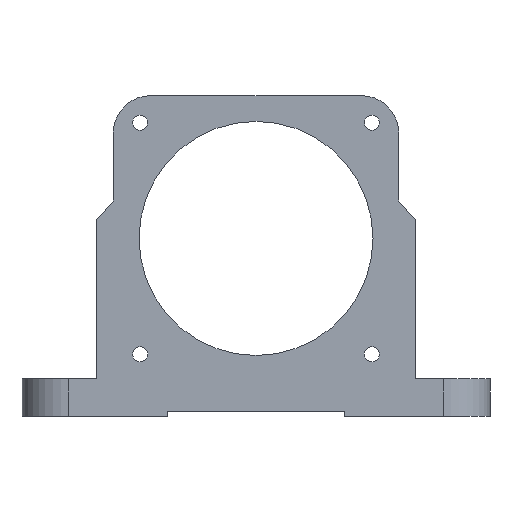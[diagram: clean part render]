
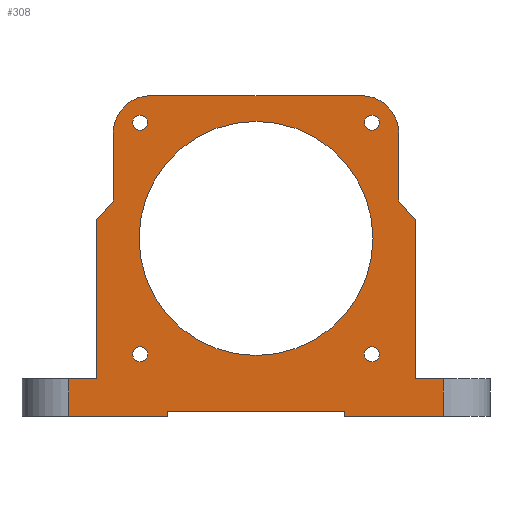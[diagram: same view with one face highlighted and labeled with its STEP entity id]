
A CAD part, front view. The second image highlights one B-rep face of the part: STEP entity #308.
In plain terms, the highlighted planar face has unit normal (0, -1, 0).
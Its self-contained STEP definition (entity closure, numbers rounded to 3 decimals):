
#84=CARTESIAN_POINT('',(-20.5,0.0,67.5));
#85=VERTEX_POINT('',#84);
#92=CARTESIAN_POINT('',(-12.5,0.0,59.5));
#93=VERTEX_POINT('',#92);
#94=CARTESIAN_POINT('',(-20.5,0.,59.5));
#95=DIRECTION('',(0.,1.0,0.));
#96=DIRECTION('',(0.707,0.,0.707));
#97=AXIS2_PLACEMENT_3D('',#94,#95,#96);
#98=CIRCLE('',#97,8.0);
#99=EDGE_CURVE('',#85,#93,#98,.T.);
#110=CARTESIAN_POINT('',(-43.,0.0,3.5));
#111=DIRECTION('',(0.0,1.0,0.0));
#112=DIRECTION('',(0.0,0.0,1.0));
#113=AXIS2_PLACEMENT_3D('',#110,#111,#112);
#114=PLANE('',#113);
#115=ORIENTED_EDGE('',*,*,#99,.F.);
#116=CARTESIAN_POINT('',(-65.5,0.0,67.5));
#117=VERTEX_POINT('',#116);
#118=CARTESIAN_POINT('',(-20.5,0.0,67.5));
#119=DIRECTION('',(-1.0,0.0,0.0));
#120=VECTOR('',#119,45.);
#121=LINE('',#118,#120);
#122=EDGE_CURVE('',#85,#117,#121,.T.);
#123=ORIENTED_EDGE('',*,*,#122,.T.);
#124=CARTESIAN_POINT('',(-73.5,0.0,59.5));
#125=VERTEX_POINT('',#124);
#126=CARTESIAN_POINT('',(-65.5,0.,59.5));
#127=DIRECTION('',(0.,1.0,0.));
#128=DIRECTION('',(-0.707,0.,0.707));
#129=AXIS2_PLACEMENT_3D('',#126,#127,#128);
#130=CIRCLE('',#129,8.0);
#131=EDGE_CURVE('',#125,#117,#130,.T.);
#132=ORIENTED_EDGE('',*,*,#131,.F.);
#133=CARTESIAN_POINT('',(-73.5,0.0,45.0));
#134=VERTEX_POINT('',#133);
#135=CARTESIAN_POINT('',(-73.5,0.0,59.5));
#136=DIRECTION('',(0.0,0.0,-1.0));
#137=VECTOR('',#136,14.5);
#138=LINE('',#135,#137);
#139=EDGE_CURVE('',#125,#134,#138,.T.);
#140=ORIENTED_EDGE('',*,*,#139,.T.);
#141=CARTESIAN_POINT('',(-77.0,0.0,41.));
#142=VERTEX_POINT('',#141);
#143=CARTESIAN_POINT('',(-73.5,0.0,45.0));
#144=DIRECTION('',(-0.659,0.0,-0.753));
#145=VECTOR('',#144,5.315);
#146=LINE('',#143,#145);
#147=EDGE_CURVE('',#134,#142,#146,.T.);
#148=ORIENTED_EDGE('',*,*,#147,.T.);
#149=CARTESIAN_POINT('',(-77.,0.0,7.));
#150=VERTEX_POINT('',#149);
#151=CARTESIAN_POINT('',(-77.,0.0,7.));
#152=DIRECTION('',(0.0,0.0,1.0));
#153=VECTOR('',#152,34.);
#154=LINE('',#151,#153);
#155=EDGE_CURVE('',#150,#142,#154,.T.);
#156=ORIENTED_EDGE('',*,*,#155,.F.);
#157=CARTESIAN_POINT('',(-83.0,0.0,7.));
#158=VERTEX_POINT('',#157);
#159=CARTESIAN_POINT('',(-77.,0.0,7.));
#160=DIRECTION('',(-1.0,0.0,0.0));
#161=VECTOR('',#160,6.);
#162=LINE('',#159,#161);
#163=EDGE_CURVE('',#150,#158,#162,.T.);
#164=ORIENTED_EDGE('',*,*,#163,.T.);
#165=CARTESIAN_POINT('',(-83.0,0.0,-1.));
#166=VERTEX_POINT('',#165);
#167=CARTESIAN_POINT('',(-83.0,0.0,-1.));
#168=DIRECTION('',(0.0,0.0,1.0));
#169=VECTOR('',#168,8.);
#170=LINE('',#167,#169);
#171=EDGE_CURVE('',#166,#158,#170,.T.);
#172=ORIENTED_EDGE('',*,*,#171,.F.);
#173=CARTESIAN_POINT('',(-62.,0.0,-1.));
#174=VERTEX_POINT('',#173);
#175=CARTESIAN_POINT('',(-83.0,0.0,-1.));
#176=DIRECTION('',(1.0,0.0,0.0));
#177=VECTOR('',#176,21.);
#178=LINE('',#175,#177);
#179=EDGE_CURVE('',#166,#174,#178,.T.);
#180=ORIENTED_EDGE('',*,*,#179,.T.);
#181=CARTESIAN_POINT('',(-62.,0.0,0.));
#182=VERTEX_POINT('',#181);
#183=CARTESIAN_POINT('',(-62.,0.0,0.));
#184=DIRECTION('',(0.0,0.0,-1.0));
#185=VECTOR('',#184,1.0);
#186=LINE('',#183,#185);
#187=EDGE_CURVE('',#182,#174,#186,.T.);
#188=ORIENTED_EDGE('',*,*,#187,.F.);
#189=CARTESIAN_POINT('',(-24.,0.0,0.));
#190=VERTEX_POINT('',#189);
#191=CARTESIAN_POINT('',(-62.,0.0,0.));
#192=DIRECTION('',(1.0,0.0,0.0));
#193=VECTOR('',#192,38.);
#194=LINE('',#191,#193);
#195=EDGE_CURVE('',#182,#190,#194,.T.);
#196=ORIENTED_EDGE('',*,*,#195,.T.);
#197=CARTESIAN_POINT('',(-24.,0.0,-1.));
#198=VERTEX_POINT('',#197);
#199=CARTESIAN_POINT('',(-24.,0.0,0.));
#200=DIRECTION('',(0.0,0.0,-1.0));
#201=VECTOR('',#200,1.0);
#202=LINE('',#199,#201);
#203=EDGE_CURVE('',#190,#198,#202,.T.);
#204=ORIENTED_EDGE('',*,*,#203,.T.);
#205=CARTESIAN_POINT('',(-3.,0.0,-1.));
#206=VERTEX_POINT('',#205);
#207=CARTESIAN_POINT('',(-24.,0.0,-1.));
#208=DIRECTION('',(1.0,0.0,0.0));
#209=VECTOR('',#208,21.);
#210=LINE('',#207,#209);
#211=EDGE_CURVE('',#198,#206,#210,.T.);
#212=ORIENTED_EDGE('',*,*,#211,.T.);
#213=CARTESIAN_POINT('',(-3.,0.0,7.));
#214=VERTEX_POINT('',#213);
#215=CARTESIAN_POINT('',(-3.,0.0,7.));
#216=DIRECTION('',(0.0,0.0,-1.0));
#217=VECTOR('',#216,8.);
#218=LINE('',#215,#217);
#219=EDGE_CURVE('',#214,#206,#218,.T.);
#220=ORIENTED_EDGE('',*,*,#219,.F.);
#221=CARTESIAN_POINT('',(-9.,0.,7.));
#222=VERTEX_POINT('',#221);
#223=CARTESIAN_POINT('',(-3.,0.0,7.));
#224=DIRECTION('',(-1.0,0.0,0.0));
#225=VECTOR('',#224,6.);
#226=LINE('',#223,#225);
#227=EDGE_CURVE('',#214,#222,#226,.T.);
#228=ORIENTED_EDGE('',*,*,#227,.T.);
#229=CARTESIAN_POINT('',(-9.,0.0,41.));
#230=VERTEX_POINT('',#229);
#231=CARTESIAN_POINT('',(-9.,0.,7.));
#232=DIRECTION('',(0.0,0.0,1.0));
#233=VECTOR('',#232,34.0);
#234=LINE('',#231,#233);
#235=EDGE_CURVE('',#222,#230,#234,.T.);
#236=ORIENTED_EDGE('',*,*,#235,.T.);
#237=CARTESIAN_POINT('',(-12.5,0.0,45.0));
#238=VERTEX_POINT('',#237);
#239=CARTESIAN_POINT('',(-9.,0.0,41.));
#240=DIRECTION('',(-0.659,0.0,0.753));
#241=VECTOR('',#240,5.315);
#242=LINE('',#239,#241);
#243=EDGE_CURVE('',#230,#238,#242,.T.);
#244=ORIENTED_EDGE('',*,*,#243,.T.);
#245=CARTESIAN_POINT('',(-12.5,0.0,45.0));
#246=DIRECTION('',(0.0,0.0,1.0));
#247=VECTOR('',#246,14.5);
#248=LINE('',#245,#247);
#249=EDGE_CURVE('',#238,#93,#248,.T.);
#250=ORIENTED_EDGE('',*,*,#249,.T.);
#251=EDGE_LOOP('',(#115,#123,#132,#140,#148,#156,#164,#172,#180,#188,#196,#204,#212,#220,#228,#236,#244,#250));
#252=FACE_OUTER_BOUND('',#251,.T.);
#253=CARTESIAN_POINT('',(-18.251,0.0,10.651));
#254=VERTEX_POINT('',#253);
#255=CARTESIAN_POINT('',(-18.251,0.0,12.251));
#256=DIRECTION('',(0.0,1.0,0.0));
#257=DIRECTION('',(0.0,0.0,1.0));
#258=AXIS2_PLACEMENT_3D('',#255,#256,#257);
#259=CIRCLE('',#258,1.6);
#260=EDGE_CURVE('',#254,#254,#259,.T.);
#261=ORIENTED_EDGE('',*,*,#260,.T.);
#262=EDGE_LOOP('',(#261));
#263=FACE_BOUND('',#262,.T.);
#264=CARTESIAN_POINT('',(-69.349,0.0,12.251));
#265=VERTEX_POINT('',#264);
#266=CARTESIAN_POINT('',(-67.749,0.0,12.251));
#267=DIRECTION('',(0.0,1.0,0.0));
#268=DIRECTION('',(1.0,0.0,0.0));
#269=AXIS2_PLACEMENT_3D('',#266,#267,#268);
#270=CIRCLE('',#269,1.6);
#271=EDGE_CURVE('',#265,#265,#270,.T.);
#272=ORIENTED_EDGE('',*,*,#271,.T.);
#273=EDGE_LOOP('',(#272));
#274=FACE_BOUND('',#273,.T.);
#275=CARTESIAN_POINT('',(-67.749,0.0,63.349));
#276=VERTEX_POINT('',#275);
#277=CARTESIAN_POINT('',(-67.749,0.0,61.749));
#278=DIRECTION('',(0.0,1.0,0.0));
#279=DIRECTION('',(0.0,0.0,-1.0));
#280=AXIS2_PLACEMENT_3D('',#277,#278,#279);
#281=CIRCLE('',#280,1.6);
#282=EDGE_CURVE('',#276,#276,#281,.T.);
#283=ORIENTED_EDGE('',*,*,#282,.T.);
#284=EDGE_LOOP('',(#283));
#285=FACE_BOUND('',#284,.T.);
#286=CARTESIAN_POINT('',(-16.651,0.0,61.749));
#287=VERTEX_POINT('',#286);
#288=CARTESIAN_POINT('',(-18.251,0.0,61.749));
#289=DIRECTION('',(0.0,1.0,0.0));
#290=DIRECTION('',(-1.0,0.0,0.0));
#291=AXIS2_PLACEMENT_3D('',#288,#289,#290);
#292=CIRCLE('',#291,1.6);
#293=EDGE_CURVE('',#287,#287,#292,.T.);
#294=ORIENTED_EDGE('',*,*,#293,.T.);
#295=EDGE_LOOP('',(#294));
#296=FACE_BOUND('',#295,.T.);
#297=CARTESIAN_POINT('',(-18.,0.0,37.));
#298=VERTEX_POINT('',#297);
#299=CARTESIAN_POINT('',(-43.,0.0,37.));
#300=DIRECTION('',(0.0,1.0,0.0));
#301=DIRECTION('',(-1.0,0.0,0.0));
#302=AXIS2_PLACEMENT_3D('',#299,#300,#301);
#303=CIRCLE('',#302,25.0);
#304=EDGE_CURVE('',#298,#298,#303,.T.);
#305=ORIENTED_EDGE('',*,*,#304,.T.);
#306=EDGE_LOOP('',(#305));
#307=FACE_BOUND('',#306,.T.);
#308=ADVANCED_FACE('',(#252,#263,#274,#285,#296,#307),#114,.F.);
